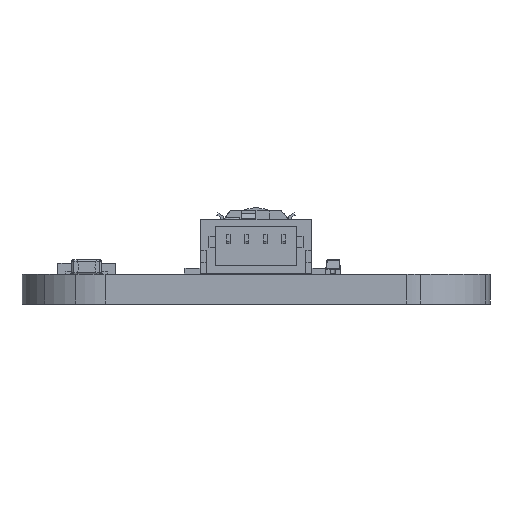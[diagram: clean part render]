
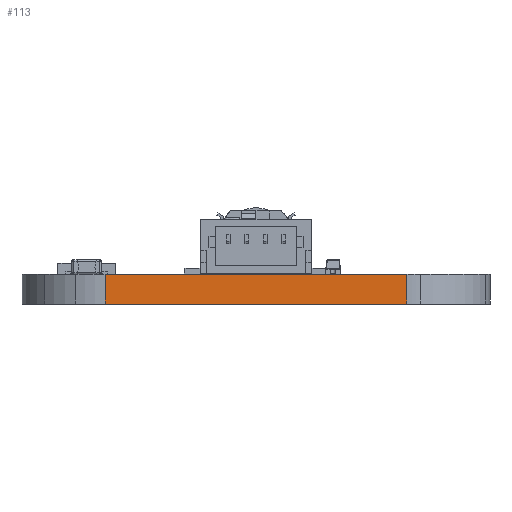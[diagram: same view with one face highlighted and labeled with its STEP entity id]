
A CAD part, left-side view. The second image highlights one B-rep face of the part: STEP entity #113.
In plain terms, the highlighted planar face has unit normal (-1, 0, 0).
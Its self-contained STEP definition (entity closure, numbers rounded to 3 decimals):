
#113 = ADVANCED_FACE('',(#114),#148,.F.);
#114 = FACE_BOUND('',#115,.F.);
#115 = EDGE_LOOP('',(#116,#126,#134,#142));
#116 = ORIENTED_EDGE('',*,*,#117,.T.);
#117 = EDGE_CURVE('',#118,#120,#122,.T.);
#118 = VERTEX_POINT('',#119);
#119 = CARTESIAN_POINT('',(0.,20.86,0.));
#120 = VERTEX_POINT('',#121);
#121 = CARTESIAN_POINT('',(0.,20.86,1.606));
#122 = LINE('',#123,#124);
#123 = CARTESIAN_POINT('',(0.,20.86,0.));
#124 = VECTOR('',#125,1.);
#125 = DIRECTION('',(0.,0.,1.));
#126 = ORIENTED_EDGE('',*,*,#127,.T.);
#127 = EDGE_CURVE('',#120,#128,#130,.T.);
#128 = VERTEX_POINT('',#129);
#129 = CARTESIAN_POINT('',(0.,4.5,1.606));
#130 = LINE('',#131,#132);
#131 = CARTESIAN_POINT('',(0.,20.86,1.606));
#132 = VECTOR('',#133,1.);
#133 = DIRECTION('',(0.,-1.,0.));
#134 = ORIENTED_EDGE('',*,*,#135,.F.);
#135 = EDGE_CURVE('',#136,#128,#138,.T.);
#136 = VERTEX_POINT('',#137);
#137 = CARTESIAN_POINT('',(0.,4.5,0.));
#138 = LINE('',#139,#140);
#139 = CARTESIAN_POINT('',(0.,4.5,0.));
#140 = VECTOR('',#141,1.);
#141 = DIRECTION('',(0.,0.,1.));
#142 = ORIENTED_EDGE('',*,*,#143,.F.);
#143 = EDGE_CURVE('',#118,#136,#144,.T.);
#144 = LINE('',#145,#146);
#145 = CARTESIAN_POINT('',(0.,20.86,0.));
#146 = VECTOR('',#147,1.);
#147 = DIRECTION('',(0.,-1.,0.));
#148 = PLANE('',#149);
#149 = AXIS2_PLACEMENT_3D('',#150,#151,#152);
#150 = CARTESIAN_POINT('',(0.,20.86,0.));
#151 = DIRECTION('',(1.,0.,-0.));
#152 = DIRECTION('',(0.,-1.,0.));
